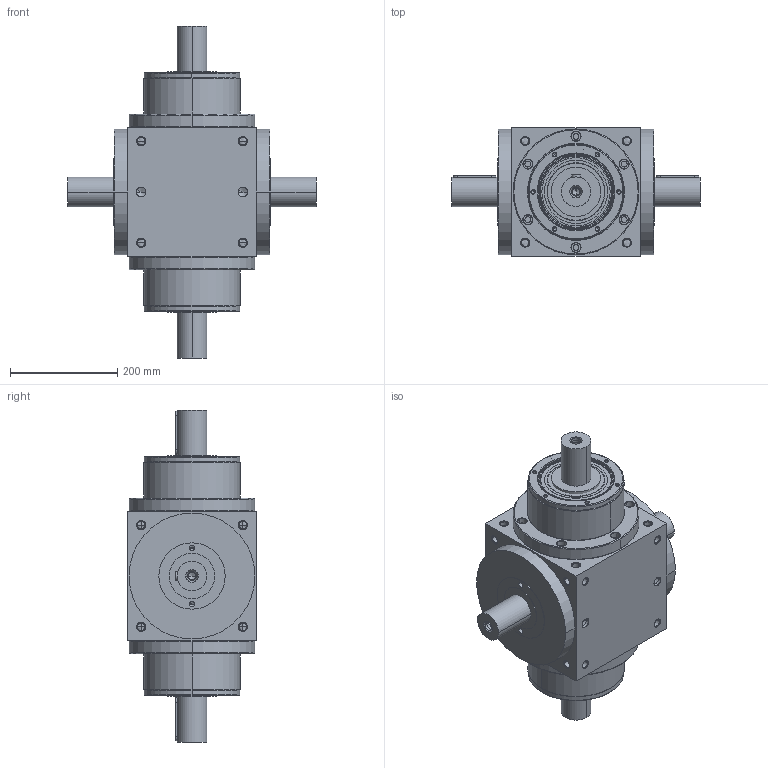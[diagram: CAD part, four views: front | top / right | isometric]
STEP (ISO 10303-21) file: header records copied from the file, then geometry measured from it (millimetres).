
FILE_DESCRIPTION((''),'2;1');
FILE_NAME('AT2404M-1_ASM','2010-02-09T',('d00080'),(''),'PRO/ENGINEER BY PARAMETRIC TECHNOLOGY CORPORATION, 2008170','PRO/ENGINEER BY PARAMETRIC TECHNOLOGY CORPORATION, 2008170','');
FILE_SCHEMA(('CONFIG_CONTROL_DESIGN'));
Length unit declared in the file: millimetre
Products named in the file (4): AT4M-HOUSING-1-9; P1801900001; 22400071009; AT2404M-1_ASM
Assembly tree (5 placements, depth 2):
  AT2404M-1_ASM
    AT4M-HOUSING-1-9
    P1801900001  x2
    22400071009  x2
Bounding box: 464 x 240 x 620 mm (x, y, z)
Volume: 21020696.2 mm3; surface area: 1034173 mm2
Topology: 7 solids, 47 shells, 868 faces, 2076 edges, 1228 vertices
Faces by surface type: cylinder 380, cone 300, plane 116, torus 72
Entity records: 19027 total; most frequent: CARTESIAN_POINT 3990, DIRECTION 3378, ORIENTED_EDGE 2844, EDGE_CURVE 1490, AXIS2_PLACEMENT_3D 1414, VERTEX_POINT 933, CIRCLE 764, EDGE_LOOP 757
